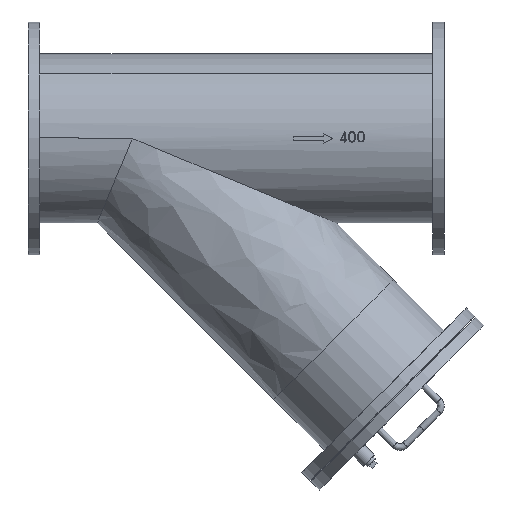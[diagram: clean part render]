
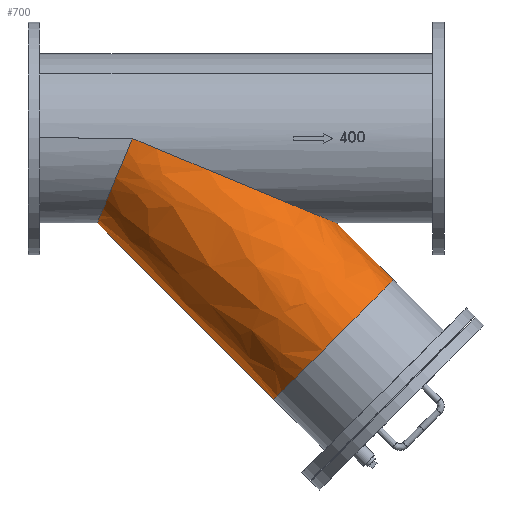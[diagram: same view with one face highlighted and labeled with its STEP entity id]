
A CAD part, front view. The second image highlights one B-rep face of the part: STEP entity #700.
In plain terms, the highlighted free-form (B-spline) face has degree [2, 1] with [5, 2] control points.
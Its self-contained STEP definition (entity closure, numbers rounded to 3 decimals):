
#700=ADVANCED_FACE('',(#1981),#1980,.T.);
#1980=( BOUNDED_SURFACE() B_SPLINE_SURFACE( 2,1,((#4308,#4309),(#4310,#4311),(#4312,#4313),(#4314,#4315),(#4316,#4317)), .UNSPECIFIED.,.F.,.F.,.F.) B_SPLINE_SURFACE_WITH_KNOTS((3,2,3),(2,2),(0.,0.5,1.),(0.,1.), .UNSPECIFIED. ) GEOMETRIC_REPRESENTATION_ITEM() RATIONAL_B_SPLINE_SURFACE(((1.,1.),(0.707,0.707),(1.,1.),(0.707,0.707),(1.,1.))) REPRESENTATION_ITEM('') SURFACE() );
#1981=FACE_OUTER_BOUND('',#4318,.T.);
#4308=CARTESIAN_POINT('',(590.221,0.002,-627.589));
#4309=CARTESIAN_POINT('',(106.372,0.002,-143.74));
#4310=CARTESIAN_POINT('',(590.22,-203.198,-627.59));
#4311=CARTESIAN_POINT('',(106.371,-203.198,-143.742));
#4312=CARTESIAN_POINT('',(733.904,-203.2,-483.906));
#4313=CARTESIAN_POINT('',(250.055,-203.2,-0.057));
#4314=CARTESIAN_POINT('',(877.588,-203.202,-340.222));
#4315=CARTESIAN_POINT('',(393.739,-203.202,143.627));
#4316=CARTESIAN_POINT('',(877.589,-0.002,-340.221));
#4317=CARTESIAN_POINT('',(393.74,-0.002,143.628));
#4318=EDGE_LOOP('',(#6050,#6051,#6052,#6053));
#6050=ORIENTED_EDGE('',*,*,#6987,.F.);
#6051=ORIENTED_EDGE('',*,*,#6984,.T.);
#6052=ORIENTED_EDGE('',*,*,#6988,.T.);
#6053=ORIENTED_EDGE('',*,*,#6986,.F.);
#6984=EDGE_CURVE('',#9721,#9714,#9722,.T.);
#6986=EDGE_CURVE('',#9728,#9713,#9735,.T.);
#6987=EDGE_CURVE('',#9721,#9728,#9741,.T.);
#6988=EDGE_CURVE('',#9714,#9713,#9747,.T.);
#9713=VERTEX_POINT('',#12905);
#9714=VERTEX_POINT('',#12906);
#9721=VERTEX_POINT('',#12961);
#9722=(BOUNDED_CURVE() B_SPLINE_CURVE(1,(#12962,#12963),.UNSPECIFIED.,.F.,.F.) B_SPLINE_CURVE_WITH_KNOTS((2,2),(0.,0.283),.UNSPECIFIED.) CURVE() GEOMETRIC_REPRESENTATION_ITEM() RATIONAL_B_SPLINE_CURVE((1.,1.)) REPRESENTATION_ITEM('') );
#9728=VERTEX_POINT('',#12964);
#9735=(BOUNDED_CURVE() B_SPLINE_CURVE(1,(#12969,#12970),.UNSPECIFIED.,.F.,.F.) B_SPLINE_CURVE_WITH_KNOTS((2,2),(0.,0.877),.UNSPECIFIED.) CURVE() GEOMETRIC_REPRESENTATION_ITEM() RATIONAL_B_SPLINE_CURVE((0.75,0.75)) REPRESENTATION_ITEM('') );
#9741=CIRCLE('',#12974,203.2);
#9747=(BOUNDED_CURVE() B_SPLINE_CURVE(3,(#12975,#12976,#12977,#12978,#12979,#12980,#12981,#12982,#12983,#12984,#12985,#12986,#12987,#12988,#12989,#12990,#12991,#12992,#12993,#12994,#12995,#12996,#12997,#12998,#12999,#13000,#13001,#13002,#13003,#13004,#13005,#13006,#13007,#13008,#13009,#13010,#13011,#13012,#13013,#13014,#13015,#13016,#13017,#13018,#13019,#13020,#13021,#13022,#13023,#13024,#13025,#13026,#13027),.UNSPECIFIED.,.F.,.F.) B_SPLINE_CURVE_WITH_KNOTS((4,1,1,1,1,1,1,1,1,1,1,1,1,1,1,1,1,1,1,1,1,1,1,1,1,1,1,1,1,1,1,1,1,1,1,1,1,1,1,1,1,1,1,1,1,1,1,1,1,1,4),(0.5,0.504,0.508,0.512,0.516,0.524,0.532,0.539,0.548,0.555,0.563,0.571,0.579,0.587,0.595,0.611,0.626,0.642,0.658,0.674,0.689,0.705,0.721,0.752,0.8,0.822,0.823,0.823,0.823,0.823,0.823,0.823,0.823,0.823,0.823,0.824,0.826,0.827,0.831,0.839,0.847,0.862,0.878,0.894,0.909,0.924,0.939,0.954,0.97,0.985,1.),.UNSPECIFIED.) CURVE() GEOMETRIC_REPRESENTATION_ITEM() RATIONAL_B_SPLINE_CURVE((1.,1.,1.,1.,1.,1.,1.,1.,1.,1.,1.,1.,1.,1.,1.,1.,1.,1.,1.,1.,1.,1.,1.,1.,1.,1.,1.,1.,1.,1.,1.,1.,1.,1.,1.,1.,1.,1.,1.,1.,1.,1.,1.,1.,1.,1.,1.,1.,1.,1.,1.,1.,1.)) REPRESENTATION_ITEM('') );
#12905=CARTESIAN_POINT('',(165.832,0.,-203.2));
#12906=CARTESIAN_POINT('',(740.569,-0.002,-203.2));
#12961=CARTESIAN_POINT('',(877.589,-0.002,-340.221));
#12962=CARTESIAN_POINT('',(877.589,-0.002,-340.221));
#12963=CARTESIAN_POINT('',(740.568,-0.002,-203.2));
#12964=CARTESIAN_POINT('',(590.221,0.,-627.589));
#12969=CARTESIAN_POINT('',(590.221,0.002,-627.589));
#12970=CARTESIAN_POINT('',(165.832,0.002,-203.2));
#12971=CARTESIAN_POINT('',(733.905,0.,-483.905));
#12972=DIRECTION('',(0.707,0.,-0.707));
#12973=DIRECTION('',(-0.707,0.,-0.707));
#12974=AXIS2_PLACEMENT_3D('',#12971,#12972,#12973);
#12975=CARTESIAN_POINT('',(740.569,-0.002,-203.2));
#12976=CARTESIAN_POINT('',(740.569,-2.481,-203.2));
#12977=CARTESIAN_POINT('',(740.347,-7.458,-203.109));
#12978=CARTESIAN_POINT('',(739.367,-14.824,-202.703));
#12979=CARTESIAN_POINT('',(737.764,-22.092,-202.038));
#12980=CARTESIAN_POINT('',(734.913,-31.364,-200.858));
#12981=CARTESIAN_POINT('',(729.998,-42.654,-198.822));
#12982=CARTESIAN_POINT('',(722.564,-55.014,-195.743));
#12983=CARTESIAN_POINT('',(713.715,-66.649,-192.077));
#12984=CARTESIAN_POINT('',(704.145,-77.095,-188.113));
#12985=CARTESIAN_POINT('',(693.665,-86.91,-183.772));
#12986=CARTESIAN_POINT('',(682.872,-95.776,-179.302));
#12987=CARTESIAN_POINT('',(671.418,-104.158,-174.557));
#12988=CARTESIAN_POINT('',(659.819,-111.807,-169.753));
#12989=CARTESIAN_POINT('',(647.73,-119.053,-164.745));
#12990=CARTESIAN_POINT('',(631.497,-127.957,-158.021));
#12991=CARTESIAN_POINT('',(610.664,-138.023,-149.392));
#12992=CARTESIAN_POINT('',(585.275,-148.573,-138.876));
#12993=CARTESIAN_POINT('',(559.459,-157.872,-128.182));
#12994=CARTESIAN_POINT('',(533.274,-166.078,-117.336));
#12995=CARTESIAN_POINT('',(506.802,-173.295,-106.371));
#12996=CARTESIAN_POINT('',(480.123,-179.601,-95.32));
#12997=CARTESIAN_POINT('',(453.303,-185.064,-84.211));
#12998=CARTESIAN_POINT('',(417.365,-191.303,-69.325));
#12999=CARTESIAN_POINT('',(363.117,-198.443,-46.855));
#13000=CARTESIAN_POINT('',(304.79,-202.464,-22.695));
#13001=CARTESIAN_POINT('',(264.222,-203.186,-5.89));
#13002=CARTESIAN_POINT('',(250.864,-203.2,-0.37));
#13003=CARTESIAN_POINT('',(250.352,-203.2,-0.177));
#13004=CARTESIAN_POINT('',(250.167,-203.2,-0.13));
#13005=CARTESIAN_POINT('',(250.051,-203.2,-0.133));
#13006=CARTESIAN_POINT('',(249.97,-203.2,-0.215));
#13007=CARTESIAN_POINT('',(249.911,-203.2,-0.312));
#13008=CARTESIAN_POINT('',(249.846,-203.2,-0.437));
#13009=CARTESIAN_POINT('',(249.764,-203.199,-0.617));
#13010=CARTESIAN_POINT('',(249.6,-203.198,-0.992));
#13011=CARTESIAN_POINT('',(248.922,-203.188,-2.61));
#13012=CARTESIAN_POINT('',(247.981,-203.149,-4.875));
#13013=CARTESIAN_POINT('',(246.204,-203.011,-9.167));
#13014=CARTESIAN_POINT('',(243.095,-202.603,-16.672));
#13015=CARTESIAN_POINT('',(238.428,-201.423,-27.937));
#13016=CARTESIAN_POINT('',(231.044,-198.341,-45.764));
#13017=CARTESIAN_POINT('',(221.992,-192.264,-67.618));
#13018=CARTESIAN_POINT('',(211.56,-181.466,-92.803));
#13019=CARTESIAN_POINT('',(201.787,-167.32,-116.397));
#13020=CARTESIAN_POINT('',(192.888,-150.1,-137.88));
#13021=CARTESIAN_POINT('',(185.016,-130.12,-156.885));
#13022=CARTESIAN_POINT('',(178.294,-107.619,-173.113));
#13023=CARTESIAN_POINT('',(172.852,-82.849,-186.251));
#13024=CARTESIAN_POINT('',(168.84,-56.28,-195.937));
#13025=CARTESIAN_POINT('',(166.383,-28.457,-201.87));
#13026=CARTESIAN_POINT('',(165.832,-9.462,-203.2));
#13027=CARTESIAN_POINT('',(165.832,0.,-203.2));
